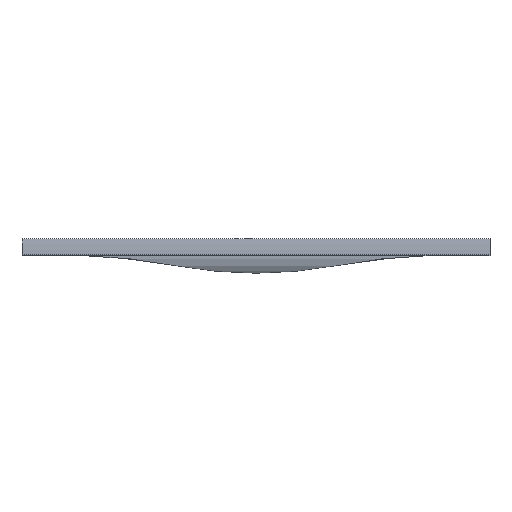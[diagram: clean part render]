
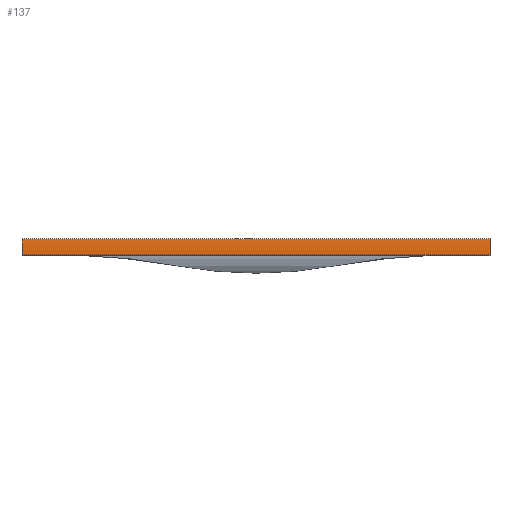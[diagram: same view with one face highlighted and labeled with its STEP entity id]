
A CAD part, top view. The second image highlights one B-rep face of the part: STEP entity #137.
In plain terms, the highlighted cylindrical face has radius 176.85 mm (diameter 353.7 mm), a partial arc.
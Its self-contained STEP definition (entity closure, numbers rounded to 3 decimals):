
#137 = ADVANCED_FACE( '', ( #262 ), #263, .T. );
#262 = FACE_OUTER_BOUND( '', #373, .T. );
#263 = CYLINDRICAL_SURFACE( '', #374, 176.85 );
#373 = EDGE_LOOP( '', ( #660, #661, #662, #663 ) );
#374 = AXIS2_PLACEMENT_3D( '', #664, #665, #666 );
#660 = ORIENTED_EDGE( '', *, *, #694, .T. );
#661 = ORIENTED_EDGE( '', *, *, #730, .F. );
#662 = ORIENTED_EDGE( '', *, *, #780, .F. );
#663 = ORIENTED_EDGE( '', *, *, #782, .T. );
#664 = CARTESIAN_POINT( '', ( 297.5, -11., -173.85 ) );
#665 = DIRECTION( '', ( 1., 0., 0. ) );
#666 = DIRECTION( '', ( 0., 0., 1. ) );
#694 = EDGE_CURVE( '', #820, #818, #821, .T. );
#730 = EDGE_CURVE( '', #880, #818, #882, .T. );
#780 = EDGE_CURVE( '', #953, #880, #955, .T. );
#782 = EDGE_CURVE( '', #953, #820, #957, .T. );
#818 = VERTEX_POINT( '', #1000 );
#820 = VERTEX_POINT( '', #1003 );
#821 = CIRCLE( '', #1004, 176.85 );
#880 = VERTEX_POINT( '', #1126 );
#882 = LINE( '', #1129, #1130 );
#953 = VERTEX_POINT( '', #1253 );
#955 = CIRCLE( '', #1256, 176.85 );
#957 = LINE( '', #1258, #1259 );
#1000 = CARTESIAN_POINT( '', ( -297.5, -11., 3. ) );
#1003 = CARTESIAN_POINT( '', ( -297.5, 9.5, 1.808 ) );
#1004 = AXIS2_PLACEMENT_3D( '', #1316, #1317, #1318 );
#1126 = CARTESIAN_POINT( '', ( 297.5, -11., 3. ) );
#1129 = CARTESIAN_POINT( '', ( 297.5, -11., 3. ) );
#1130 = VECTOR( '', #1347, 1000. );
#1253 = CARTESIAN_POINT( '', ( 297.5, 9.5, 1.808 ) );
#1256 = AXIS2_PLACEMENT_3D( '', #1389, #1390, #1391 );
#1258 = CARTESIAN_POINT( '', ( 297.5, 9.5, 1.808 ) );
#1259 = VECTOR( '', #1392, 1000. );
#1316 = CARTESIAN_POINT( '', ( -297.5, -11., -173.85 ) );
#1317 = DIRECTION( '', ( 1., 0., 0. ) );
#1318 = DIRECTION( '', ( 0., 0., -1. ) );
#1347 = DIRECTION( '', ( -1., 0., 0. ) );
#1389 = CARTESIAN_POINT( '', ( 297.5, -11., -173.85 ) );
#1390 = DIRECTION( '', ( 1., 0., 0. ) );
#1391 = DIRECTION( '', ( 0., 0., -1. ) );
#1392 = DIRECTION( '', ( -1., 0., 0. ) );
